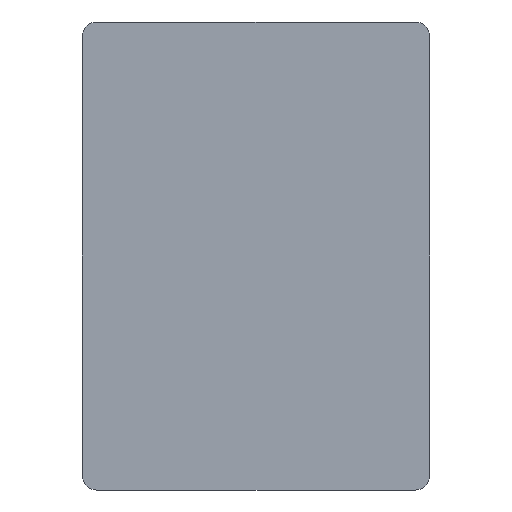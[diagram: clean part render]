
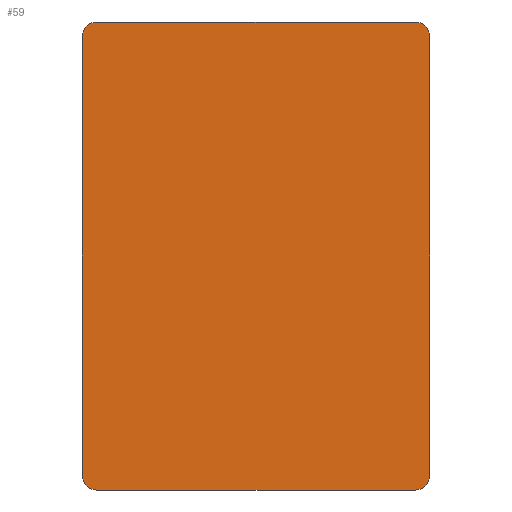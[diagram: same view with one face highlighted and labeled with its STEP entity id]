
A CAD part, front view. The second image highlights one B-rep face of the part: STEP entity #59.
In plain terms, the highlighted planar face has unit normal (0, -1, 0).
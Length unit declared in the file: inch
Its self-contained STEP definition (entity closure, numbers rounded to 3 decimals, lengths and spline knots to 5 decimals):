
#35 = VERTEX_POINT ( 'NONE', #319 ) ;
#42 = VERTEX_POINT ( 'NONE', #309 ) ;
#57 = EDGE_CURVE ( 'NONE', #209, #35, #226, .T. ) ;
#59 = ADVANCED_FACE ( 'NONE', ( #222 ), #220, .T. ) ;
#60 = EDGE_LOOP ( 'NONE', ( #61, #62, #63, #152, #153, #154, #155, #156 ) ) ;
#61 = ORIENTED_EDGE ( 'NONE', *, *, #213, .F. ) ;
#62 = ORIENTED_EDGE ( 'NONE', *, *, #178, .F. ) ;
#63 = ORIENTED_EDGE ( 'NONE', *, *, #161, .F. ) ;
#152 = ORIENTED_EDGE ( 'NONE', *, *, #176, .F. ) ;
#153 = ORIENTED_EDGE ( 'NONE', *, *, #195, .F. ) ;
#154 = ORIENTED_EDGE ( 'NONE', *, *, #166, .F. ) ;
#155 = ORIENTED_EDGE ( 'NONE', *, *, #183, .F. ) ;
#156 = ORIENTED_EDGE ( 'NONE', *, *, #57, .F. ) ;
#161 = EDGE_CURVE ( 'NONE', #42, #201, #508, .T. ) ;
#166 = EDGE_CURVE ( 'NONE', #174, #193, #500, .T. ) ;
#174 = VERTEX_POINT ( 'NONE', #627 ) ;
#176 = EDGE_CURVE ( 'NONE', #188, #42, #612, .T. ) ;
#178 = EDGE_CURVE ( 'NONE', #201, #210, #608, .T. ) ;
#183 = EDGE_CURVE ( 'NONE', #35, #174, #583, .T. ) ;
#188 = VERTEX_POINT ( 'NONE', #488 ) ;
#193 = VERTEX_POINT ( 'NONE', #479 ) ;
#195 = EDGE_CURVE ( 'NONE', #193, #188, #478, .T. ) ;
#201 = VERTEX_POINT ( 'NONE', #598 ) ;
#209 = VERTEX_POINT ( 'NONE', #690 ) ;
#210 = VERTEX_POINT ( 'NONE', #671 ) ;
#213 = EDGE_CURVE ( 'NONE', #210, #209, #696, .T. ) ;
#216 = DIRECTION ( 'NONE',  ( 0., 0., -1. ) ) ;
#217 = DIRECTION ( 'NONE',  ( 0., -1., 0. ) ) ;
#218 = CARTESIAN_POINT ( 'NONE',  ( 0.6745, -0.06, -0.9295 ) ) ;
#219 = AXIS2_PLACEMENT_3D ( 'NONE', #218, #217, #216 ) ;
#220 = PLANE ( 'NONE',  #219 ) ;
#222 = FACE_OUTER_BOUND ( 'NONE', #60, .T. ) ;
#223 = DIRECTION ( 'NONE',  ( -1., 0., 0. ) ) ;
#224 = VECTOR ( 'NONE', #223, 39.37008 ) ;
#225 = CARTESIAN_POINT ( 'NONE',  ( -0.6745, -0.06, -0.9925 ) ) ;
#226 = LINE ( 'NONE', #225, #224 ) ;
#309 = CARTESIAN_POINT ( 'NONE',  ( 0.6745, -0.06, 0.9925 ) ) ;
#319 = CARTESIAN_POINT ( 'NONE',  ( -0.6745, -0.06, -0.9925 ) ) ;
#474 = DIRECTION ( 'NONE',  ( 0., 0., 1. ) ) ;
#475 = DIRECTION ( 'NONE',  ( 0., 1., 0. ) ) ;
#476 = CARTESIAN_POINT ( 'NONE',  ( -0.6745, -0.06, 0.9295 ) ) ;
#477 = AXIS2_PLACEMENT_3D ( 'NONE', #476, #475, #474 ) ;
#478 = CIRCLE ( 'NONE', #477, 0.063 ) ;
#479 = CARTESIAN_POINT ( 'NONE',  ( -0.7375, -0.06, 0.9295 ) ) ;
#488 = CARTESIAN_POINT ( 'NONE',  ( -0.6745, -0.06, 0.9925 ) ) ;
#498 = VECTOR ( 'NONE', #644, 39.37008 ) ;
#499 = CARTESIAN_POINT ( 'NONE',  ( -0.7375, -0.06, -0.9295 ) ) ;
#500 = LINE ( 'NONE', #499, #498 ) ;
#501 = DIRECTION ( 'NONE',  ( 0., 0., 1. ) ) ;
#502 = DIRECTION ( 'NONE',  ( 0., 1., 0. ) ) ;
#503 = CARTESIAN_POINT ( 'NONE',  ( 0.6745, -0.06, 0.9295 ) ) ;
#504 = AXIS2_PLACEMENT_3D ( 'NONE', #503, #502, #501 ) ;
#508 = CIRCLE ( 'NONE', #504, 0.063 ) ;
#580 = DIRECTION ( 'NONE',  ( 0., 0., -1. ) ) ;
#581 = DIRECTION ( 'NONE',  ( 0., 1., 0. ) ) ;
#582 = AXIS2_PLACEMENT_3D ( 'NONE', #604, #581, #580 ) ;
#583 = CIRCLE ( 'NONE', #582, 0.063 ) ;
#598 = CARTESIAN_POINT ( 'NONE',  ( 0.7375, -0.06, 0.9295 ) ) ;
#604 = CARTESIAN_POINT ( 'NONE',  ( -0.6745, -0.06, -0.9295 ) ) ;
#605 = DIRECTION ( 'NONE',  ( 0., 0., -1. ) ) ;
#606 = VECTOR ( 'NONE', #605, 39.37008 ) ;
#607 = CARTESIAN_POINT ( 'NONE',  ( 0.7375, -0.06, -0.9295 ) ) ;
#608 = LINE ( 'NONE', #607, #606 ) ;
#609 = DIRECTION ( 'NONE',  ( 1., 0., 0. ) ) ;
#610 = VECTOR ( 'NONE', #609, 39.37008 ) ;
#611 = CARTESIAN_POINT ( 'NONE',  ( -0.6745, -0.06, 0.9925 ) ) ;
#612 = LINE ( 'NONE', #611, #610 ) ;
#627 = CARTESIAN_POINT ( 'NONE',  ( -0.7375, -0.06, -0.9295 ) ) ;
#644 = DIRECTION ( 'NONE',  ( 0., 0., 1. ) ) ;
#658 = DIRECTION ( 'NONE',  ( 0., 0., -1. ) ) ;
#659 = DIRECTION ( 'NONE',  ( 0., 1., 0. ) ) ;
#671 = CARTESIAN_POINT ( 'NONE',  ( 0.7375, -0.06, -0.9295 ) ) ;
#690 = CARTESIAN_POINT ( 'NONE',  ( 0.6745, -0.06, -0.9925 ) ) ;
#694 = CARTESIAN_POINT ( 'NONE',  ( 0.6745, -0.06, -0.9295 ) ) ;
#695 = AXIS2_PLACEMENT_3D ( 'NONE', #694, #659, #658 ) ;
#696 = CIRCLE ( 'NONE', #695, 0.063 ) ;
